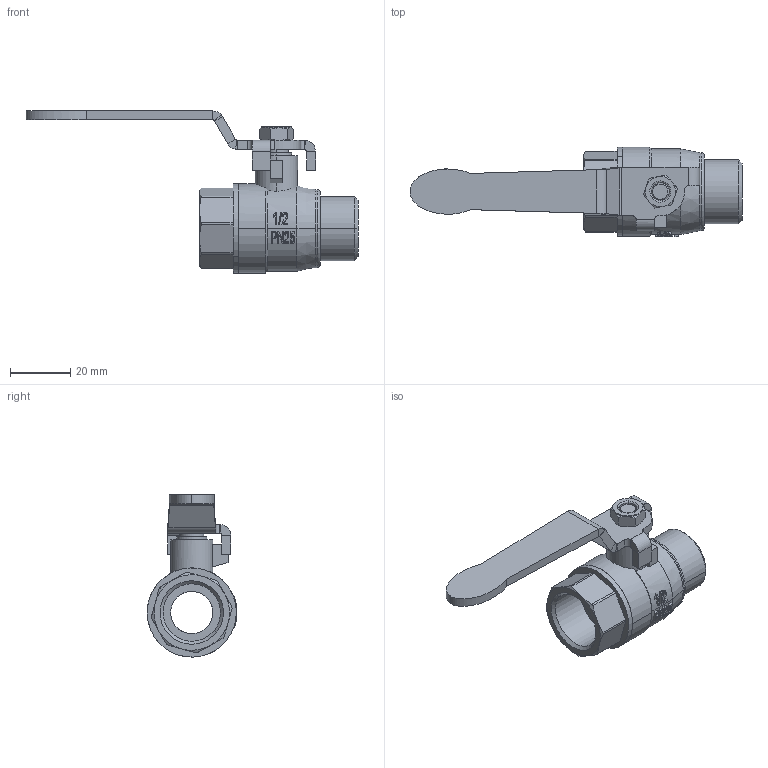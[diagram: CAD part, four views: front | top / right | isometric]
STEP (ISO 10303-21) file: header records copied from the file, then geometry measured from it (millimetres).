
FILE_DESCRIPTION(/* description */ (''),/* implementation_level */ '2;1');
FILE_NAME(/* name */ '0273.stp',/* time_stamp */ '2022-05-12T16:25:15+08:00',/* author */ (''),/* organization */ (''),/* preprocessor_version */ 'ST-DEVELOPER v11',/* originating_system */ 'SIEMENS PLM Software NX 7.5',/* authorisation */ '');
FILE_SCHEMA (('CONFIG_CONTROL_DESIGN'));
Length unit declared in the file: millimetre
Products named in the file (1): 0273
Bounding box: 109.87 x 29.67 x 53.67 mm (x, y, z)
Volume: 18831.6 mm3; surface area: 16083.8 mm2
Topology: 5 solids, 5 shells, 312 faces, 751 edges, 473 vertices
Faces by surface type: plane 116, cylinder 86, bspline 56, cone 46, torus 6, sphere 2
Entity records: 21616 total; most frequent: CARTESIAN_POINT 14647, ORIENTED_EDGE 1508, DIRECTION 1285, EDGE_CURVE 754, AXIS2_PLACEMENT_3D 502, VERTEX_POINT 477, EDGE_LOOP 347, ADVANCED_FACE 312
